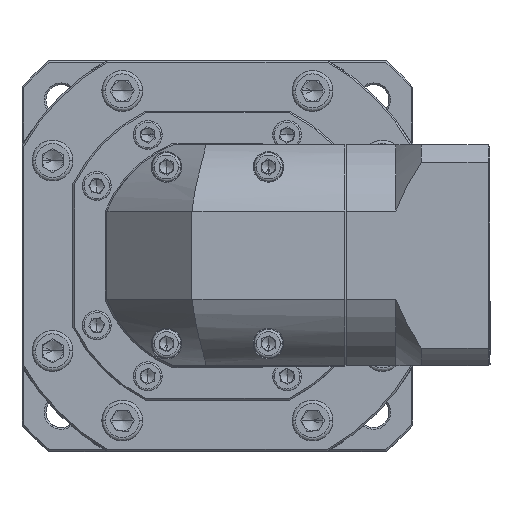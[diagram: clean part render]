
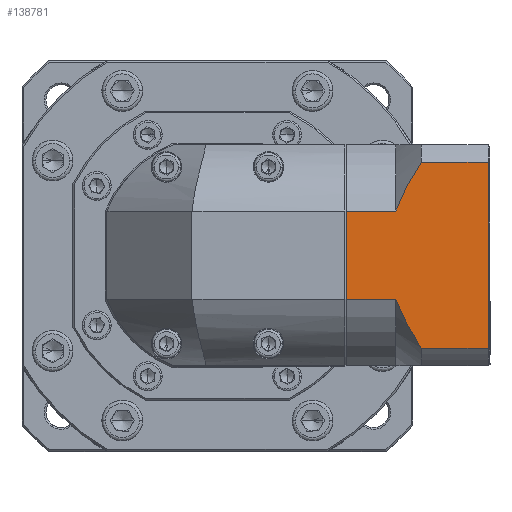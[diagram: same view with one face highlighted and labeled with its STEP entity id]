
A CAD part, top view. The second image highlights one B-rep face of the part: STEP entity #138781.
In plain terms, the highlighted planar face has unit normal (0, 0, 1).
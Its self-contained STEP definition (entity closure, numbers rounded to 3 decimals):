
#2616 = EDGE_CURVE ( 'NONE', #67794, #81016, #30862, .T. ) ;
#3202 = CARTESIAN_POINT ( 'NONE',  ( 96.614, 75.428, 27.749 ) ) ;
#6760 = CARTESIAN_POINT ( 'NONE',  ( 98.701, 120.795, 27.749 ) ) ;
#7973 = CARTESIAN_POINT ( 'NONE',  ( 96.614, 115.805, 27.749 ) ) ;
#11815 = B_SPLINE_CURVE_WITH_KNOTS ( 'NONE', 3,
 ( #67046, #132778, #51601, #120291, #52091, #6760, #131761, #41069 ),
 .UNSPECIFIED., .F., .F.,
 ( 4, 2, 2, 4 ),
 ( 0.058, 0.062, 0.066, 0.074 ),
 .UNSPECIFIED. ) ;
#12660 = EDGE_CURVE ( 'NONE', #83187, #71320, #11815, .T. ) ;
#13087 = DIRECTION ( 'NONE',  ( 0., -1., 0. ) ) ;
#14905 = AXIS2_PLACEMENT_3D ( 'NONE', #73942, #106767, #27993 ) ;
#19974 = VECTOR ( 'NONE', #13087, 1000. ) ;
#27993 = DIRECTION ( 'NONE',  ( 1., 0., 0. ) ) ;
#30240 = LINE ( 'NONE', #55962, #101600 ) ;
#30463 = LINE ( 'NONE', #72176, #141015 ) ;
#30862 = LINE ( 'NONE', #96837, #139702 ) ;
#36245 = DIRECTION ( 'NONE',  ( 0., 1., 0. ) ) ;
#39813 = VERTEX_POINT ( 'NONE', #53547 ) ;
#39963 = CARTESIAN_POINT ( 'NONE',  ( 96.853, 89.182, 27.749 ) ) ;
#40774 = ORIENTED_EDGE ( 'NONE', *, *, #84289, .T. ) ;
#41069 = CARTESIAN_POINT ( 'NONE',  ( 96.614, 115.805, 27.749 ) ) ;
#41950 = CARTESIAN_POINT ( 'NONE',  ( 101.265, 80.011, 27.749 ) ) ;
#43901 = ORIENTED_EDGE ( 'NONE', *, *, #2616, .F. ) ;
#50987 = PLANE ( 'NONE',  #14905 ) ;
#51541 = DIRECTION ( 'NONE',  ( -1., 0., 0. ) ) ;
#51601 = CARTESIAN_POINT ( 'NONE',  ( 102.666, 127.911, 27.749 ) ) ;
#51692 = VERTEX_POINT ( 'NONE', #141098 ) ;
#52091 = CARTESIAN_POINT ( 'NONE',  ( 100.611, 124.39, 27.749 ) ) ;
#52429 = VECTOR ( 'NONE', #127741, 1000. ) ;
#53547 = CARTESIAN_POINT ( 'NONE',  ( 104.114, 75.428, 27.749 ) ) ;
#53957 = CARTESIAN_POINT ( 'NONE',  ( 98.755, 84.804, 27.749 ) ) ;
#55962 = CARTESIAN_POINT ( 'NONE',  ( 96.614, 130.201, 27.749 ) ) ;
#60341 = LINE ( 'NONE', #7973, #111905 ) ;
#60534 = ORIENTED_EDGE ( 'NONE', *, *, #85144, .F. ) ;
#62805 = CARTESIAN_POINT ( 'NONE',  ( 104.114, 130.201, 27.749 ) ) ;
#63747 = DIRECTION ( 'NONE',  ( 1., 0., 0. ) ) ;
#66829 = CARTESIAN_POINT ( 'NONE',  ( 82.114, 89.824, 27.749 ) ) ;
#67046 = CARTESIAN_POINT ( 'NONE',  ( 104.114, 130.201, 27.749 ) ) ;
#67794 = VERTEX_POINT ( 'NONE', #143325 ) ;
#68409 = CARTESIAN_POINT ( 'NONE',  ( 82.114, 135.314, 27.749 ) ) ;
#70742 = EDGE_CURVE ( 'NONE', #107193, #71320, #60341, .T. ) ;
#71320 = VERTEX_POINT ( 'NONE', #135722 ) ;
#72176 = CARTESIAN_POINT ( 'NONE',  ( 123.814, 135.314, 27.749 ) ) ;
#73942 = CARTESIAN_POINT ( 'NONE',  ( 124.314, 135.314, 27.749 ) ) ;
#76395 = CARTESIAN_POINT ( 'NONE',  ( 97.105, 88.543, 27.749 ) ) ;
#77041 = ORIENTED_EDGE ( 'NONE', *, *, #70742, .F. ) ;
#77240 = EDGE_CURVE ( 'NONE', #83187, #87255, #30240, .T. ) ;
#77372 = CARTESIAN_POINT ( 'NONE',  ( 97.905, 86.658, 27.749 ) ) ;
#77989 = EDGE_CURVE ( 'NONE', #51692, #87255, #30463, .T. ) ;
#81016 = VERTEX_POINT ( 'NONE', #66829 ) ;
#83187 = VERTEX_POINT ( 'NONE', #62805 ) ;
#84289 = EDGE_CURVE ( 'NONE', #67794, #39813, #114903, .T. ) ;
#85144 = EDGE_CURVE ( 'NONE', #51692, #39813, #112984, .T. ) ;
#85167 = ORIENTED_EDGE ( 'NONE', *, *, #77989, .T. ) ;
#85632 = EDGE_CURVE ( 'NONE', #107193, #81016, #141172, .T. ) ;
#87255 = VERTEX_POINT ( 'NONE', #139121 ) ;
#88824 = CARTESIAN_POINT ( 'NONE',  ( 99.36, 83.592, 27.749 ) ) ;
#93241 = FACE_OUTER_BOUND ( 'NONE', #138532, .T. ) ;
#96837 = CARTESIAN_POINT ( 'NONE',  ( 96.614, 89.824, 27.749 ) ) ;
#98767 = CARTESIAN_POINT ( 'NONE',  ( 97.631, 87.282, 27.749 ) ) ;
#101600 = VECTOR ( 'NONE', #127542, 1000. ) ;
#106767 = DIRECTION ( 'NONE',  ( 0., 0., -1. ) ) ;
#107193 = VERTEX_POINT ( 'NONE', #119595 ) ;
#107744 = CARTESIAN_POINT ( 'NONE',  ( 96.614, 89.824, 27.749 ) ) ;
#111905 = VECTOR ( 'NONE', #63747, 1000. ) ;
#112984 = LINE ( 'NONE', #3202, #52429 ) ;
#114903 = B_SPLINE_CURVE_WITH_KNOTS ( 'NONE', 3,
 ( #107744, #39963, #76395, #98767, #77372, #53957, #88824, #41950, #144116, #134136 ),
 .UNSPECIFIED., .F., .F.,
 ( 4, 2, 2, 2, 4 ),
 ( 0.101, 0.103, 0.105, 0.109, 0.117 ),
 .UNSPECIFIED. ) ;
#116123 = ORIENTED_EDGE ( 'NONE', *, *, #77240, .F. ) ;
#119595 = CARTESIAN_POINT ( 'NONE',  ( 82.114, 115.805, 27.749 ) ) ;
#120291 = CARTESIAN_POINT ( 'NONE',  ( 101.281, 125.576, 27.749 ) ) ;
#120345 = ORIENTED_EDGE ( 'NONE', *, *, #85632, .T. ) ;
#127542 = DIRECTION ( 'NONE',  ( 1., 0., 0. ) ) ;
#127741 = DIRECTION ( 'NONE',  ( -1., 0., 0. ) ) ;
#128168 = ORIENTED_EDGE ( 'NONE', *, *, #12660, .T. ) ;
#131761 = CARTESIAN_POINT ( 'NONE',  ( 97.556, 118.343, 27.749 ) ) ;
#132778 = CARTESIAN_POINT ( 'NONE',  ( 103.381, 129.062, 27.749 ) ) ;
#134136 = CARTESIAN_POINT ( 'NONE',  ( 104.114, 75.428, 27.749 ) ) ;
#135722 = CARTESIAN_POINT ( 'NONE',  ( 96.614, 115.805, 27.749 ) ) ;
#138532 = EDGE_LOOP ( 'NONE', ( #60534, #85167, #116123, #128168, #77041, #120345, #43901, #40774 ) ) ;
#138781 = ADVANCED_FACE ( 'NONE', ( #93241 ), #50987, .F. ) ;
#139121 = CARTESIAN_POINT ( 'NONE',  ( 123.814, 130.201, 27.749 ) ) ;
#139702 = VECTOR ( 'NONE', #51541, 1000. ) ;
#141015 = VECTOR ( 'NONE', #36245, 1000. ) ;
#141098 = CARTESIAN_POINT ( 'NONE',  ( 123.814, 75.428, 27.749 ) ) ;
#141172 = LINE ( 'NONE', #68409, #19974 ) ;
#143325 = CARTESIAN_POINT ( 'NONE',  ( 96.614, 89.824, 27.749 ) ) ;
#144116 = CARTESIAN_POINT ( 'NONE',  ( 102.653, 77.697, 27.749 ) ) ;
